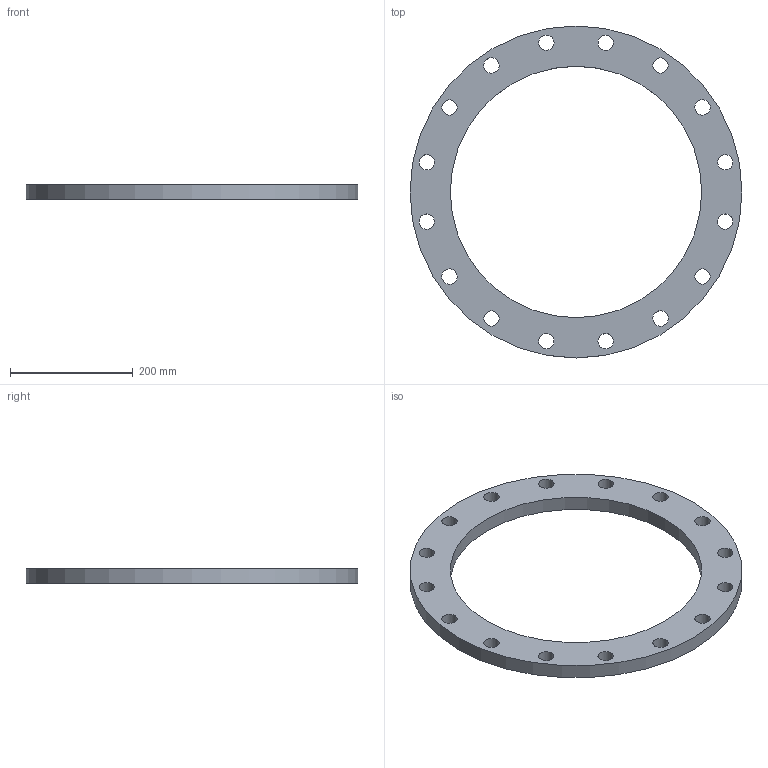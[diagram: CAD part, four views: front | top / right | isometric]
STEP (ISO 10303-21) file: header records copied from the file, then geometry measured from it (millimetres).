
FILE_DESCRIPTION(/* description */ (''),/* implementation_level */ '2;1');
FILE_NAME(/* name */ 'C:\Users\unitec\Documents\Inventor\HP\フランジ\5ksop\5ksop-400.stp',/* time_stamp */ '2016-03-16T15:22:21+09:00',/* author */ ('unitec'),/* organization */ (''),/* preprocessor_version */ 'ST-DEVELOPER v15.2',/* originating_system */ 'Autodesk Inventor 2014',/* authorisation */ '');
FILE_SCHEMA (('AUTOMOTIVE_DESIGN { 1 0 10303 214 3 1 1 }'));
Length unit declared in the file: millimetre
Products named in the file (1): 5ksop-400
Bounding box: 540 x 540 x 24 mm (x, y, z)
Volume: 2154862.4 mm3; surface area: 281284.1 mm2
Topology: 1 solids, 1 shells, 20 faces, 54 edges, 36 vertices
Faces by surface type: cylinder 18, plane 2
Full cylindrical faces by diameter (mm): 25 x16, 409 x1, 540 x1
Entity records: 653 total; most frequent: DIRECTION 114, CARTESIAN_POINT 93, EDGE_LOOP 72, ORIENTED_EDGE 72, AXIS2_PLACEMENT_3D 57, FACE_BOUND 54, CIRCLE 36, VERTEX_POINT 36
